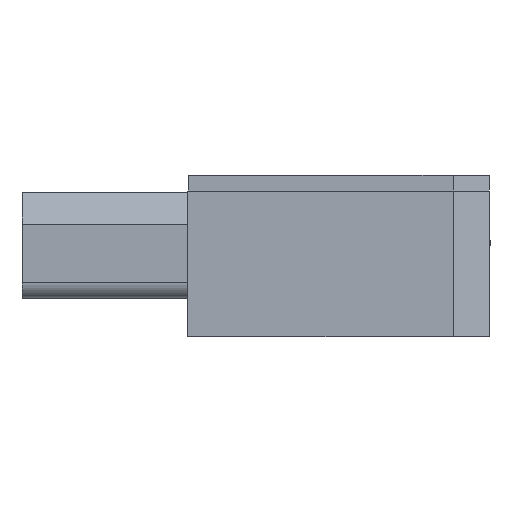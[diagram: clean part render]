
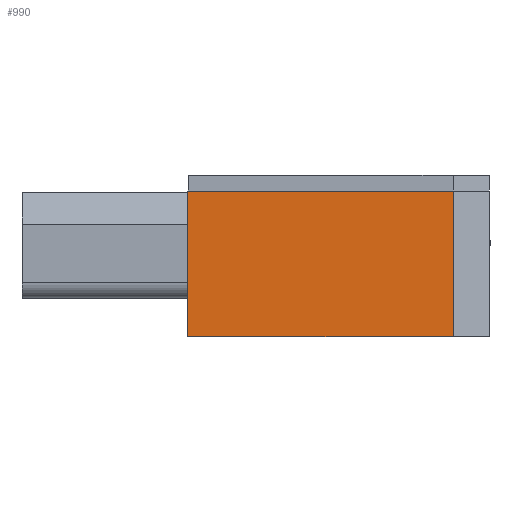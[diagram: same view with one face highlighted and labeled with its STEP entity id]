
A CAD part, front view. The second image highlights one B-rep face of the part: STEP entity #990.
In plain terms, the highlighted planar face has unit normal (0, -1, 0).
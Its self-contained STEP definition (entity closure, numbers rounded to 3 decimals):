
#990=ADVANCED_FACE('',(#2646),#2647,.F.);
#2646=FACE_OUTER_BOUND('',#5182,.T.);
#2647=PLANE('',#5183);
#5182=EDGE_LOOP('',(#8342,#8343,#8344,#8345));
#5183=AXIS2_PLACEMENT_3D('',#8346,#8347,#8348);
#8342=ORIENTED_EDGE('',*,*,#15390,.F.);
#8343=ORIENTED_EDGE('',*,*,#15391,.F.);
#8344=ORIENTED_EDGE('',*,*,#15392,.T.);
#8345=ORIENTED_EDGE('',*,*,#15393,.T.);
#8346=CARTESIAN_POINT('',(100.144,0.,55.0));
#8347=DIRECTION('',(0.,1.0,0.0));
#8348=DIRECTION('',(1.0,0.,-0.0));
#15390=EDGE_CURVE('',#18293,#18294,#18295,.T.);
#15391=EDGE_CURVE('',#18296,#18293,#18297,.T.);
#15392=EDGE_CURVE('',#18296,#18298,#18299,.T.);
#15393=EDGE_CURVE('',#18298,#18294,#18300,.T.);
#18293=VERTEX_POINT('',#22643);
#18294=VERTEX_POINT('',#22644);
#18295=LINE('',#22645,#22646);
#18296=VERTEX_POINT('',#22647);
#18297=LINE('',#22648,#22649);
#18298=VERTEX_POINT('',#22650);
#18299=LINE('',#22651,#22652);
#18300=LINE('',#22653,#22654);
#22643=CARTESIAN_POINT('',(100.144,0.0,55.0));
#22644=CARTESIAN_POINT('',(100.144,0.,0.0));
#22645=CARTESIAN_POINT('',(100.144,0.,55.0));
#22646=VECTOR('',#28297,1.0);
#22647=CARTESIAN_POINT('',(0.0,0.0,55.0));
#22648=CARTESIAN_POINT('',(100.144,0.,55.0));
#22649=VECTOR('',#28298,1.0);
#22650=CARTESIAN_POINT('',(0.0,0.0,0.0));
#22651=CARTESIAN_POINT('',(0.0,0.0,55.0));
#22652=VECTOR('',#28299,1.0);
#22653=CARTESIAN_POINT('',(100.144,0.,0.0));
#22654=VECTOR('',#28300,1.0);
#28297=DIRECTION('',(-0.0,-0.0,-1.0));
#28298=DIRECTION('',(1.0,0.,0.0));
#28299=DIRECTION('',(-0.0,-0.0,-1.0));
#28300=DIRECTION('',(1.0,0.,0.0));
